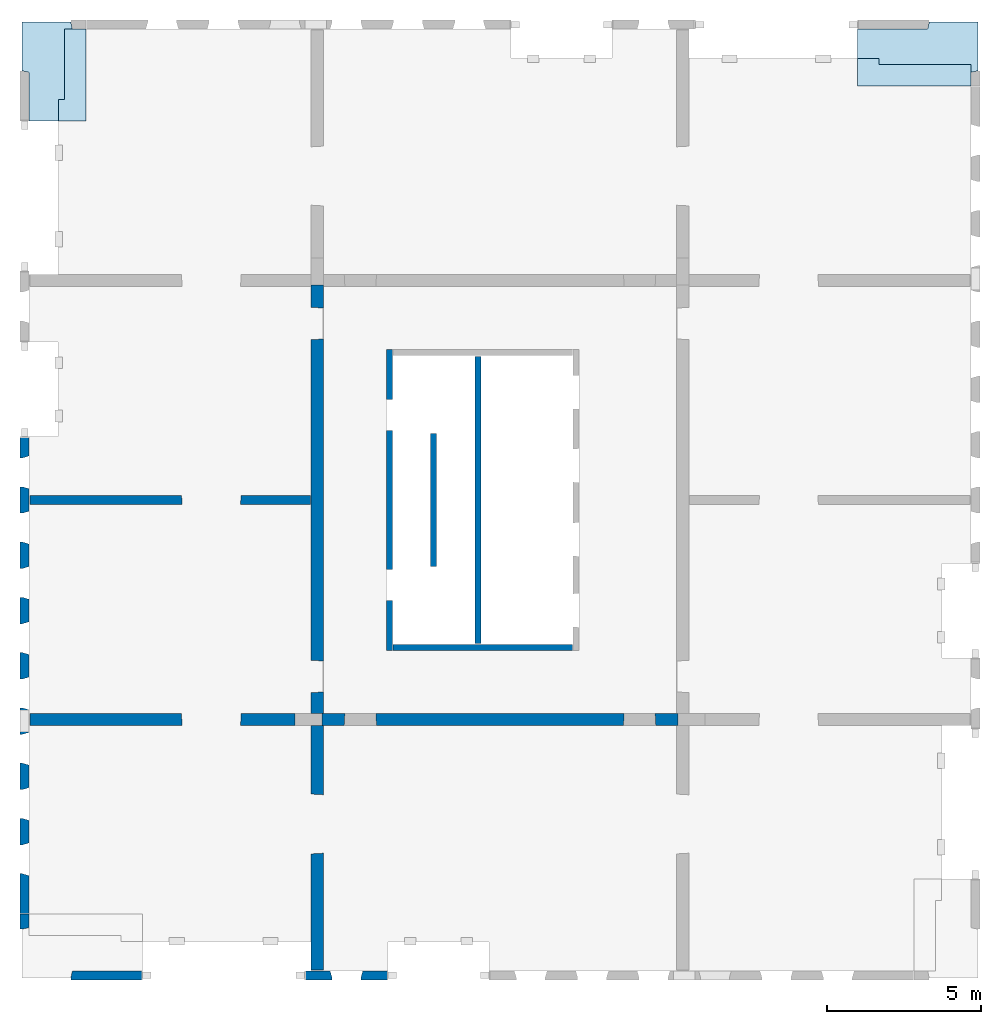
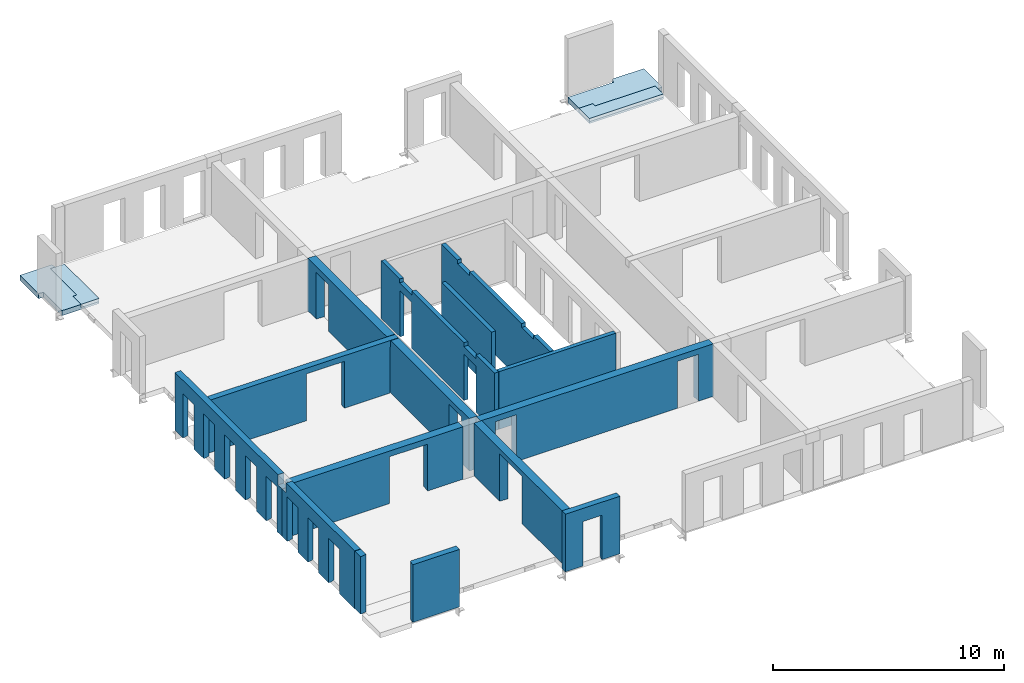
# One storey, part 2 of 4: 14 walls, 4 slabs, 34 openings.
"""IFC2X3 building model written with IfcOpenShell, lengths in millimetres."""

from ifc_helpers import new_model, entity, si_unit, converted_unit, derived_unit, direction, frame, frame_2d, origin, place, context, subcontext, project, spatial, polyline, rectangle, outline, extrude, faceted_brep, material, layer, layer_set, layer_usage, type_object, element, save


model = new_model("IFC2X3")

# Units and contexts
model_context = context("Model", 3, precision=0.01, world=origin(), true_north=direction((6.12303176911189e-17, 1.0)))
body_context = subcontext(model_context, "Body", "Model", "MODEL_VIEW")
ifc_project = project(units=[si_unit("LENGTHUNIT", "METRE", prefix="MILLI"), si_unit("AREAUNIT", "SQUARE_METRE"), si_unit("VOLUMEUNIT", "CUBIC_METRE"), converted_unit("PLANEANGLEUNIT", "DEGREE", entity("IfcRatioMeasure", 0.0174532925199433), si_unit("PLANEANGLEUNIT", "RADIAN"), dimensions=[0, 0, 0, 0, 0, 0, 0]), si_unit("MASSUNIT", "GRAM", prefix="KILO"), derived_unit("MASSDENSITYUNIT", [(si_unit("MASSUNIT", "GRAM", prefix="KILO"), 1), (si_unit("LENGTHUNIT", "METRE"), -3)]), si_unit("TIMEUNIT", "SECOND"), si_unit("FREQUENCYUNIT", "HERTZ"), si_unit("THERMODYNAMICTEMPERATUREUNIT", "DEGREE_CELSIUS"), derived_unit("THERMALTRANSMITTANCEUNIT", [(si_unit("MASSUNIT", "GRAM", prefix="KILO"), 1), (si_unit("THERMODYNAMICTEMPERATUREUNIT", "KELVIN"), -1), (si_unit("TIMEUNIT", "SECOND"), -3)]), derived_unit("VOLUMETRICFLOWRATEUNIT", [(si_unit("LENGTHUNIT", "METRE"), 3), (si_unit("TIMEUNIT", "SECOND"), -1)]), si_unit("ELECTRICCURRENTUNIT", "AMPERE"), si_unit("ELECTRICVOLTAGEUNIT", "VOLT"), si_unit("POWERUNIT", "WATT"), si_unit("FORCEUNIT", "NEWTON", prefix="KILO"), si_unit("ILLUMINANCEUNIT", "LUX"), si_unit("LUMINOUSFLUXUNIT", "LUMEN"), si_unit("LUMINOUSINTENSITYUNIT", "CANDELA"), derived_unit("USERDEFINED", [(si_unit("MASSUNIT", "GRAM", prefix="KILO"), -1), (si_unit("LENGTHUNIT", "METRE"), -2), (si_unit("TIMEUNIT", "SECOND"), 3), (si_unit("LUMINOUSFLUXUNIT", "LUMEN"), 1)]), derived_unit("LINEARVELOCITYUNIT", [(si_unit("LENGTHUNIT", "METRE"), 1), (si_unit("TIMEUNIT", "SECOND"), -1)]), si_unit("PRESSUREUNIT", "PASCAL"), derived_unit("USERDEFINED", [(si_unit("LENGTHUNIT", "METRE"), -2), (si_unit("MASSUNIT", "GRAM", prefix="KILO"), 1), (si_unit("TIMEUNIT", "SECOND"), -2)])], contexts=[model_context])

# Site, building, storey
site_placement = place(None, origin())
site = spatial("IfcSite", under=ifc_project, at=site_placement, Name="Default", CompositionType="ELEMENT")
building_placement = place(site_placement, origin())
building = spatial("IfcBuilding", under=site, at=building_placement, Name="niet gebruiken", CompositionType="ELEMENT")
storey_placement = place(building_placement, frame((0.0, 0.0, 94500.0)))
storey = spatial("IfcBuildingStorey", under=building, at=storey_placement, Name="30 dertigste verdieping", CompositionType="ELEMENT", Elevation=94500.0000000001)

# Slabs
ifc_material_1 = material(Name="NLRS_f2_beton prefab")
ifc_layer_1 = layer(ifc_material_1, 270.0)
ifc_layer_set_1 = layer_set([ifc_layer_1], Name="Floor:NLRS_23.22_FL_beton prefab d=270 3D element_gen")
ifc_layer_usage_1 = layer_usage(ifc_layer_set_1, "AXIS3", "POSITIVE", 0.0)
slab_1_placement = place(storey_placement, origin())
element("IfcSlab", 1, at=slab_1_placement, inside=storey, material=ifc_layer_usage_1, Name="Floor:NLRS_23.22_FL_beton prefab d=270 3D element_gen", ObjectType="Floor:NLRS_23.22_FL_beton prefab d=270 3D element_gen", PredefinedType="LANDING", context=body_context, shape_type="SweptSolid", body=[
    extrude(outline(polyline([(-322.675940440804, -982.471394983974), (1267.47139498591, -982.471394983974), (1267.47139498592, 607.675940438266), (1034.47139498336, 655.152429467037), (1034.47139498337, 1100.5286050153), (-1955.52860501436, 1100.52860501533), (-1955.52860501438, -749.471394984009), (-370.152429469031, -749.471394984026), (-322.675940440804, -982.471394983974)])), frame((127169.471394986, 31795.5286050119, -90.0), z_axis=(0.0, 0.0, -1.0), x_axis=(0.0, 1.0, 0.0)), (0.0, 0.0, 1.0), 270.000000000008),
])
ifc_material_2 = material(Name="NLRS_f2_beton ihwg")
ifc_layer_2 = layer(ifc_material_2, 170.0)
ifc_layer_set_2 = layer_set([ifc_layer_2], Name="Floor:NLRS_23.21_FL_beton ihwg d=170_gen")
ifc_layer_usage_2 = layer_usage(ifc_layer_set_2, "AXIS3", "POSITIVE", 0.0)
slab_2_placement = place(storey_placement, origin())
element("IfcSlab", 2, at=slab_2_placement, inside=storey, material=ifc_layer_usage_2, Name="Floor:NLRS_23.21_FL_beton ihwg d=170_gen", ObjectType="Floor:NLRS_23.21_FL_beton ihwg d=170_gen", PredefinedType="FLOOR", context=body_context, shape_type="SweptSolid", body=[
    extrude(outline(polyline([(-1230.0, -366.666666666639), (-530.0, -366.666666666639), (-530.0, -166.66666666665), (1760.0, -166.666666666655), (1760.0, 533.333333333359), (-1230.0, 533.333333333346), (-1230.0, -366.666666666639)])), frame((127736.666666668, 31070.0, -90.0), z_axis=(0.0, 0.0, -1.0), x_axis=(0.0, 1.0, 0.0)), (0.0, 0.0, 1.0), 169.999999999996),
])
ifc_layer_usage_3 = layer_usage(ifc_layer_set_1, "AXIS3", "POSITIVE", 0.0)
slab_3_placement = place(storey_placement, origin())
element("IfcSlab", 3, at=slab_3_placement, inside=storey, material=ifc_layer_usage_3, Name="Floor:NLRS_23.22_FL_beton prefab d=270 3D element_gen", ObjectType="Floor:NLRS_23.22_FL_beton prefab d=270 3D element_gen", PredefinedType="LANDING", context=body_context, shape_type="SweptSolid", body=[
    extrude(outline(polyline([(-1100.52860501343, -2480.52860501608), (749.471394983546, -2480.52860501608), (749.471394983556, -195.152429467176), (982.471394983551, -147.675940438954), (982.471394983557, 1442.47139498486), (-607.675940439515, 1442.47139498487), (-655.152429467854, 1209.47139498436), (-1100.52860501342, 1209.47139498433), (-1100.52860501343, -2480.52860501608)])), frame((155870.528605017, 32080.5286050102, -90.0), z_axis=(0.0, 0.0, -1.0), x_axis=(0.0, 1.0, 0.0)), (0.0, 0.0, 1.0), 270.000000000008),
])
ifc_layer_usage_4 = layer_usage(ifc_layer_set_2, "AXIS3", "POSITIVE", 0.0)
slab_4_placement = place(storey_placement, origin())
element("IfcSlab", 4, at=slab_4_placement, inside=storey, material=ifc_layer_usage_4, Name="Floor:NLRS_23.21_FL_beton ihwg d=170_gen", ObjectType="Floor:NLRS_23.21_FL_beton ihwg d=170_gen", PredefinedType="FLOOR", context=body_context, shape_type="SweptSolid", body=[
    extrude(outline(polyline([(-533.333333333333, -1463.33333333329), (366.666666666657, -1463.33333333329), (366.666666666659, -763.333333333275), (166.66666666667, -763.333333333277), (166.666666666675, 2226.66666666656), (-533.333333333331, 2226.66666666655), (-533.333333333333, -1463.33333333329)])), frame((154853.333333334, 31513.3333333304, -90.0), z_axis=(0.0, 0.0, -1.0), x_axis=(0.0, 1.0, 0.0)), (0.0, 0.0, 1.0), 169.999999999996),
])

# Wall, openings
ifc_layer_3 = layer(ifc_material_1, 200.0)
ifc_layer_set_3 = layer_set([ifc_layer_3], Name="Basic Wall:NLRS_22.21_WA_beton prefab d=200_gen")
ifc_layer_usage_5 = layer_usage(ifc_layer_set_3, "AXIS2", "NEGATIVE", 100.0)
wall_type_1 = type_object("IfcWallType", Name="Basic Wall:NLRS_22.21_WA_beton prefab d=200_gen", PredefinedType="STANDARD", material=ifc_layer_set_3)
wall_1_placement = place(storey_placement, frame((138150.0, 22400.0, -50.0), z_axis=(0.0, 0.0, 1.0), x_axis=(0.0, -1.0, 0.0)))
wall_1 = element("IfcWallStandardCase", 5, at=wall_1_placement, inside=storey, type_object=wall_type_1, material=ifc_layer_usage_5, Name="Basic Wall:NLRS_22.21_WA_beton prefab d=200_gen", ObjectType="Basic Wall:NLRS_22.21_WA_beton prefab d=200_gen", context=body_context, shape_type="SweptSolid", body=[
    extrude(rectangle(XDim=9800.0, YDim=199.999999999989, at=frame_2d((4900.0, 3.76587649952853e-13), x_axis=(-1.0, 0.0))), origin(), (0.0, 0.0, 1.0), 3040.0),
])
opening_1_placement = place(wall_1_placement, origin())
element("IfcOpeningElement", 6, at=opening_1_placement, cuts=wall_1, Name="Basic Wall:NLRS_22.21_WA_beton prefab d=200_gen", ObjectType="Opening", context=body_context, shape_type="SweptSolid", body=[
    extrude(rectangle(XDim=200.000000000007, YDim=1044.0, at=frame_2d((8.66862137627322e-12, 0.0), x_axis=(1.0, 0.0))), frame((7672.0, -100.0, 2940.0), z_axis=(0.0, 1.0, 0.0), x_axis=(0.0, 0.0, -1.0)), (0.0, 0.0, 1.0), 199.999999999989),
])
opening_2_placement = place(wall_1_placement, origin())
element("IfcOpeningElement", 7, at=opening_2_placement, cuts=wall_1, Name="Basic Wall:NLRS_22.21_WA_beton prefab d=200_gen", ObjectType="Opening", context=body_context, shape_type="SweptSolid", body=[
    extrude(rectangle(XDim=200.000000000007, YDim=1044.0, at=frame_2d((8.66862137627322e-12, 2.1600499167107e-12), x_axis=(1.0, 0.0))), frame((2128.0, -100.0, 2940.0), z_axis=(0.0, 1.0, 0.0), x_axis=(0.0, 0.0, -1.0)), (0.0, 0.0, 1.0), 199.999999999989),
])
opening_3_placement = place(wall_1_placement, origin())
element("IfcOpeningElement", 8, at=opening_3_placement, cuts=wall_1, Name="Basic Wall:NLRS_22.21_WA_beton prefab d=200_gen", ObjectType="Opening", context=body_context, shape_type="SweptSolid", body=[
    extrude(rectangle(XDim=2435.0, YDim=1015.99999999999, at=frame_2d((0.0, 1.10844666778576e-12), x_axis=(1.0, 0.0))), frame((7672.0, -100.0, 1217.50000000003), z_axis=(0.0, 1.0, 0.0), x_axis=(0.0, 0.0, -1.0)), (0.0, 0.0, 1.0), 199.999999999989),
])
opening_4_placement = place(wall_1_placement, origin())
element("IfcOpeningElement", 9, at=opening_4_placement, cuts=wall_1, Name="Basic Wall:NLRS_22.21_WA_beton prefab d=200_gen", ObjectType="Opening", context=body_context, shape_type="SweptSolid", body=[
    extrude(rectangle(XDim=2435.0, YDim=1015.99999999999, at=frame_2d((0.0, -2.18847162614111e-12), x_axis=(1.0, 0.0))), frame((2128.0, -100.0, 1217.50000000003), z_axis=(0.0, 1.0, 0.0), x_axis=(0.0, 0.0, -1.0)), (0.0, 0.0, 1.0), 199.999999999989),
])

ifc_layer_usage_6 = layer_usage(ifc_layer_set_3, "AXIS2", "NEGATIVE", 100.0)
wall_2_placement = place(storey_placement, frame((141030.0, 22180.0, -50.0), z_axis=(0.0, 0.0, 1.0), x_axis=(0.0, -1.0, 0.0)))
wall_2 = element("IfcWallStandardCase", 10, at=wall_2_placement, inside=storey, type_object=wall_type_1, material=ifc_layer_usage_6, Name="Basic Wall:NLRS_22.21_WA_beton prefab d=200_gen", ObjectType="Basic Wall:NLRS_22.21_WA_beton prefab d=200_gen", context=body_context, shape_type="SweptSolid", body=[
    extrude(rectangle(XDim=9360.0, YDim=199.999999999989, at=frame_2d((4680.0, -2.8421709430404e-14), x_axis=(-1.0, 0.0))), origin(), (0.0, 0.0, 1.0), 3040.0),
])
opening_5_placement = place(wall_2_placement, origin())
element("IfcOpeningElement", 11, at=opening_5_placement, cuts=wall_2, Name="Basic Wall:NLRS_22.21_WA_beton prefab d=200_gen", ObjectType="Opening", context=body_context, shape_type="SweptSolid", body=[
    extrude(rectangle(XDim=70.0000000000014, YDim=1044.00000000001, at=frame_2d((-8.66506866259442e-12, 0.0), x_axis=(1.0, 0.0))), frame((7452.0, -100.0, 35.0), z_axis=(0.0, 1.0, 0.0), x_axis=(0.0, 0.0, -1.0)), (0.0, 0.0, 1.0), 199.999999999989),
])
opening_6_placement = place(wall_2_placement, origin())
element("IfcOpeningElement", 12, at=opening_6_placement, cuts=wall_2, Name="Basic Wall:NLRS_22.21_WA_beton prefab d=200_gen", ObjectType="Opening", context=body_context, shape_type="SweptSolid", body=[
    extrude(rectangle(XDim=70.0000000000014, YDim=1044.00000000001, at=frame_2d((-8.66506866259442e-12, 0.0), x_axis=(1.0, 0.0))), frame((1908.0, -100.0, 35.0), z_axis=(0.0, 1.0, 0.0), x_axis=(0.0, 0.0, -1.0)), (0.0, 0.0, 1.0), 199.999999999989),
])
opening_7_placement = place(wall_2_placement, origin())
element("IfcOpeningElement", 13, at=opening_7_placement, cuts=wall_2, Name="Basic Wall:NLRS_22.21_WA_beton prefab d=200_gen", ObjectType="Opening", context=body_context, shape_type="SweptSolid", body=[
    extrude(rectangle(XDim=200.000000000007, YDim=1044.00000000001, at=frame_2d((-8.66862137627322e-12, 0.0), x_axis=(1.0, 0.0))), frame((1908.0, -100.0, 2940.0), z_axis=(0.0, 1.0, 0.0), x_axis=(0.0, 0.0, -1.0)), (0.0, 0.0, 1.0), 199.999999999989),
])
opening_8_placement = place(wall_2_placement, origin())
element("IfcOpeningElement", 14, at=opening_8_placement, cuts=wall_2, Name="Basic Wall:NLRS_22.21_WA_beton prefab d=200_gen", ObjectType="Opening", context=body_context, shape_type="SweptSolid", body=[
    extrude(rectangle(XDim=200.000000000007, YDim=1044.00000000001, at=frame_2d((-8.66862137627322e-12, 0.0), x_axis=(1.0, 0.0))), frame((7452.0, -100.0, 2940.0), z_axis=(0.0, 1.0, 0.0), x_axis=(0.0, 0.0, -1.0)), (0.0, 0.0, 1.0), 199.999999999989),
])
opening_9_placement = place(wall_2_placement, origin())
element("IfcOpeningElement", 15, at=opening_9_placement, cuts=wall_2, Name="Basic Wall:NLRS_22.21_WA_beton prefab d=200_gen", ObjectType="Recess", context=body_context, shape_type="SweptSolid", body=[
    extrude(rectangle(XDim=399.999999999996, YDim=280.000000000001, at=frame_2d((-2.1600499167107e-12, -8.66862137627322e-12), x_axis=(0.0, 1.0))), frame((770.0, -60.0, 438.0), z_axis=(0.0, 1.0, 0.0), x_axis=(1.0, 0.0, 0.0)), (0.0, 0.0, 1.0), 159.999999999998),
])
opening_10_placement = place(wall_2_placement, origin())
element("IfcOpeningElement", 16, at=opening_10_placement, cuts=wall_2, Name="Basic Wall:NLRS_22.21_WA_beton prefab d=200_gen", ObjectType="Recess", context=body_context, shape_type="SweptSolid", body=[
    extrude(rectangle(XDim=399.999999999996, YDim=280.000000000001, at=frame_2d((-2.1600499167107e-12, -8.66862137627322e-12), x_axis=(0.0, 1.0))), frame((1570.0, -60.0, 438.0), z_axis=(0.0, 1.0, 0.0), x_axis=(1.0, 0.0, 0.0)), (0.0, 0.0, 1.0), 159.999999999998),
])
opening_11_placement = place(wall_2_placement, origin())
element("IfcOpeningElement", 17, at=opening_11_placement, cuts=wall_2, Name="Basic Wall:NLRS_22.21_WA_beton prefab d=200_gen", ObjectType="Recess", context=body_context, shape_type="SweptSolid", body=[
    extrude(rectangle(XDim=399.999999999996, YDim=279.999999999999, at=frame_2d((-1.08002495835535e-12, -8.66862137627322e-12), x_axis=(0.0, 1.0))), frame((3160.0, -60.0, 438.0), z_axis=(0.0, 1.0, 0.0), x_axis=(1.0, 0.0, 0.0)), (0.0, 0.0, 1.0), 159.999999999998),
])
opening_12_placement = place(wall_2_placement, origin())
element("IfcOpeningElement", 18, at=opening_12_placement, cuts=wall_2, Name="Basic Wall:NLRS_22.21_WA_beton prefab d=200_gen", ObjectType="Recess", context=body_context, shape_type="SweptSolid", body=[
    extrude(rectangle(XDim=399.999999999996, YDim=279.999999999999, at=frame_2d((1.08002495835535e-12, -8.66862137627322e-12), x_axis=(0.0, 1.0))), frame((3960.0, -60.0, 438.0), z_axis=(0.0, 1.0, 0.0), x_axis=(1.0, 0.0, 0.0)), (0.0, 0.0, 1.0), 159.999999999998),
])

# Walls
ifc_layer_usage_7 = layer_usage(ifc_layer_set_3, "AXIS2", "NEGATIVE", 100.0)
wall_3_placement = place(storey_placement, frame((139590.0, 19660.0, -50.0), z_axis=(0.0, 0.0, 1.0), x_axis=(0.0, -1.0, 0.0)))
element("IfcWallStandardCase", 19, at=wall_3_placement, inside=storey, type_object=wall_type_1, material=ifc_layer_usage_7, Name="Basic Wall:NLRS_22.21_WA_beton prefab d=200_gen", ObjectType="Basic Wall:NLRS_22.21_WA_beton prefab d=200_gen", context=body_context, shape_type="SweptSolid", body=[
    extrude(rectangle(XDim=4320.00000000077, YDim=199.999999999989, at=frame_2d((2160.00000000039, 0.0), x_axis=(-1.0, 0.0))), origin(), (0.0, 0.0, 1.0), 3040.0),
])
ifc_layer_usage_8 = layer_usage(ifc_layer_set_3, "AXIS2", "NEGATIVE", 100.0)
wall_4_placement = place(storey_placement, frame((138270.0, 12700.0, -50.0)))
element("IfcWallStandardCase", 20, at=wall_4_placement, inside=storey, type_object=wall_type_1, material=ifc_layer_usage_8, Name="Basic Wall:NLRS_22.21_WA_beton prefab d=200_gen", ObjectType="Basic Wall:NLRS_22.21_WA_beton prefab d=200_gen", context=body_context, shape_type="SweptSolid", body=[
    extrude(rectangle(XDim=5839.99999999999, YDim=199.999999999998, at=frame_2d((2919.99999999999, -6.82121026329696e-13), x_axis=(-1.0, 0.0))), origin(), (0.0, 0.0, 1.0), 3040.0),
])

# Wall, openings
ifc_layer_4 = layer(ifc_material_1, 300.0)
ifc_layer_set_4 = layer_set([ifc_layer_4], Name="Basic Wall:NLRS_22.21_WA_beton prefab d=300_gen")
ifc_layer_usage_9 = layer_usage(ifc_layer_set_4, "AXIS2", "NEGATIVE", 150.0)
wall_type_2 = type_object("IfcWallType", Name="Basic Wall:NLRS_22.21_WA_beton prefab d=300_gen", PredefinedType="STANDARD", material=ifc_layer_set_4)
wall_5_placement = place(storey_placement, frame((126440.0, 17500.0, -70.0)))
wall_5 = element("IfcWallStandardCase", 21, at=wall_5_placement, inside=storey, type_object=wall_type_2, material=ifc_layer_usage_9, Name="Basic Wall:NLRS_22.21_WA_beton prefab d=300_gen", ObjectType="Basic Wall:NLRS_22.21_WA_beton prefab d=300_gen", context=body_context, shape_type="SweptSolid", body=[
    extrude(rectangle(XDim=9559.9999999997, YDim=300.000000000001, at=frame_2d((4779.99999999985, -5.54223333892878e-13), x_axis=(-1.0, 0.0))), origin(), (0.0, 0.0, 1.0), 2769.99999999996),
])
opening_13_placement = place(wall_5_placement, frame((4942.0, -150.0, 0.0)))
element("IfcOpeningElement", 22, at=opening_13_placement, cuts=wall_5, Name="Basic Wall:NLRS_22.21_WA_beton prefab d=300_gen", ObjectType="Opening", context=body_context, shape_type="Brep", body=[
    faceted_brep([(1918.0, 0.0, 2470.0), (18.0, 0.0, 2470.0), (18.0, 0.0, 0.0), (1918.0, 0.0, 0.0), (1936.0, 300.0, 2488.0), (1936.0, 300.0, 0.0), (0.0, 300.0, 0.0), (0.0, 300.0, 2488.0)], [[[0, 1, 2, 3]], [[4, 5, 6, 7]], [[4, 7, 1, 0]], [[7, 6, 2, 1]], [[6, 5, 3, 2]], [[5, 4, 0, 3]]]),
])
opening_14_placement = place(wall_5_placement, origin())
element("IfcOpeningElement", 23, at=opening_14_placement, cuts=wall_5, Name="Basic Wall:NLRS_22.21_WA_beton prefab d=300_gen", ObjectType="Opening", context=body_context, shape_type="SweptSolid", body=[
    extrude(rectangle(XDim=2439.99999999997, YDim=420.000000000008, at=frame_2d((0.0, 0.0), x_axis=(0.0, 1.0))), frame((9350.0, 150.0, 1220.0), z_axis=(0.0, -1.0, 0.0), x_axis=(1.0, 0.0, 0.0)), (0.0, 0.0, 1.0), 300.0),
])

# Wall, opening
ifc_layer_5 = layer(ifc_material_1, 400.0)
ifc_layer_set_5 = layer_set([ifc_layer_5], Name="Basic Wall:NLRS_22.21_WA_beton prefab d=400_gen")
ifc_layer_usage_10 = layer_usage(ifc_layer_set_5, "AXIS2", "NEGATIVE", 200.0)
wall_type_3 = type_object("IfcWallType", Name="Basic Wall:NLRS_22.21_WA_beton prefab d=400_gen", PredefinedType="STANDARD", material=ifc_layer_set_5)
wall_6_placement = place(storey_placement, frame((135800.0, 10150.0, -70.0), z_axis=(0.0, 0.0, 1.0), x_axis=(0.0, -1.0, 0.0)))
wall_6 = element("IfcWallStandardCase", 24, at=wall_6_placement, inside=storey, type_object=wall_type_3, material=ifc_layer_usage_10, Name="Basic Wall:NLRS_22.21_WA_beton prefab d=400_gen", ObjectType="Basic Wall:NLRS_22.21_WA_beton prefab d=400_gen", context=body_context, shape_type="SweptSolid", body=[
    extrude(rectangle(XDim=7959.99999999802, YDim=400.000000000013, at=frame_2d((3979.99999999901, 4.54747350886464e-13), x_axis=(-1.0, 0.0))), origin(), (0.0, 0.0, 1.0), 2770.00000000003),
])
opening_15_placement = place(wall_6_placement, frame((4174.0, -200.0, 0.0)))
element("IfcOpeningElement", 25, at=opening_15_placement, cuts=wall_6, Name="Basic Wall:NLRS_22.21_WA_beton prefab d=400_gen", ObjectType="Opening", context=body_context, shape_type="Brep", body=[
    faceted_brep([(-24.0, 400.0, 2470.0), (-24.0, 400.0, 0.0), (-1924.0, 400.0, 0.0), (-1924.0, 400.0, 2470.0), (0.0, 0.0, 2494.0), (-1948.0, 0.0, 2494.0), (-1948.0, 0.0, 0.0), (0.0, 0.0, 0.0)], [[[0, 1, 2, 3]], [[4, 5, 6, 7]], [[4, 0, 3, 5]], [[5, 3, 2, 6]], [[6, 2, 1, 7]], [[7, 1, 0, 4]]]),
])

# Wall, openings
ifc_layer_usage_11 = layer_usage(ifc_layer_set_5, "AXIS2", "NEGATIVE", 200.0)
wall_7_placement = place(storey_placement, frame((135950.003540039, 10350.0, -70.0)))
wall_7 = element("IfcWallStandardCase", 26, at=wall_7_placement, inside=storey, type_object=wall_type_3, material=ifc_layer_usage_11, Name="Basic Wall:NLRS_22.21_WA_beton prefab d=400_gen", ObjectType="Basic Wall:NLRS_22.21_WA_beton prefab d=400_gen", context=body_context, shape_type="SweptSolid", body=[
    extrude(rectangle(XDim=11599.9964599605, YDim=400.0, at=frame_2d((5799.99822998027, 1.56319401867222e-13), x_axis=(-1.0, 0.0))), origin(), (0.0, 0.0, 1.0), 2770.00000000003),
])
opening_16_placement = place(wall_7_placement, frame((725.996459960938, -200.0, 0.0)))
element("IfcOpeningElement", 27, at=opening_16_placement, cuts=wall_7, Name="Basic Wall:NLRS_22.21_WA_beton prefab d=400_gen", ObjectType="Opening", context=body_context, shape_type="Brep", body=[
    faceted_brep([(0.0, 0.0, 2472.0), (24.0, 400.0, 2448.0), (24.0, 400.0, 0.0), (0.0, 0.0, 0.0), (1030.0, 400.0, 0.0), (1054.0, 0.0, 0.0), (1030.0, 400.0, 2448.0), (1054.0, 0.0, 2472.0)], [[[0, 1, 2, 3]], [[3, 2, 4, 5]], [[6, 4, 2, 1]], [[7, 0, 3, 5]], [[7, 6, 1, 0]], [[5, 4, 6, 7]]]),
])
opening_17_placement = place(wall_7_placement, frame((9819.99645996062, -200.0, 0.0)))
element("IfcOpeningElement", 28, at=opening_17_placement, cuts=wall_7, Name="Basic Wall:NLRS_22.21_WA_beton prefab d=400_gen", ObjectType="Opening", context=body_context, shape_type="Brep", body=[
    faceted_brep([(0.0, 0.0, 2472.0), (24.0, 400.0, 2448.0), (24.0, 400.0, 0.0), (0.0, 0.0, 0.0), (1030.0, 400.0, 0.0), (1054.0, 0.0, 0.0), (1030.0, 400.0, 2448.0), (1054.0, 0.0, 2472.0)], [[[0, 1, 2, 3]], [[3, 2, 4, 5]], [[6, 4, 2, 1]], [[7, 0, 3, 5]], [[7, 6, 1, 0]], [[5, 4, 6, 7]]]),
])

# Wall, opening
ifc_layer_usage_12 = layer_usage(ifc_layer_set_5, "AXIS2", "NEGATIVE", 200.0)
wall_8_placement = place(storey_placement, frame((126440.0, 10350.0, -70.0)))
wall_8 = element("IfcWallStandardCase", 29, at=wall_8_placement, inside=storey, type_object=wall_type_3, material=ifc_layer_usage_12, Name="Basic Wall:NLRS_22.21_WA_beton prefab d=400_gen", ObjectType="Basic Wall:NLRS_22.21_WA_beton prefab d=400_gen", context=body_context, shape_type="SweptSolid", body=[
    extrude(rectangle(XDim=8630.00354003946, YDim=400.0, at=frame_2d((4315.00177001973, -2.70006239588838e-13), x_axis=(-1.0, 0.0))), origin(), (0.0, 0.0, 1.0), 2770.00000000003),
])
opening_18_placement = place(wall_8_placement, frame((4936.0, -200.0, 0.0)))
element("IfcOpeningElement", 30, at=opening_18_placement, cuts=wall_8, Name="Basic Wall:NLRS_22.21_WA_beton prefab d=400_gen", ObjectType="Opening", context=body_context, shape_type="Brep", body=[
    faceted_brep([(1924.0, 0.0, 2470.0), (24.0, 0.0, 2470.0), (24.0, 0.0, 0.0), (1924.0, 0.0, 0.0), (1948.0, 400.0, 2494.0), (1948.0, 400.0, 0.0), (0.0, 400.0, 0.0), (0.0, 400.0, 2494.0)], [[[0, 1, 2, 3]], [[4, 5, 6, 7]], [[4, 7, 1, 0]], [[7, 6, 2, 1]], [[6, 5, 3, 2]], [[5, 4, 0, 3]]]),
])

# Wall, openings
ifc_layer_usage_13 = layer_usage(ifc_layer_set_5, "AXIS2", "NEGATIVE", 200.0)
wall_9_placement = place(storey_placement, frame((135800.0, 24500.0, -70.0), z_axis=(0.0, 0.0, 1.0), x_axis=(0.0, -1.0, 0.0)))
wall_9 = element("IfcWallStandardCase", 31, at=wall_9_placement, inside=storey, type_object=wall_type_3, material=ifc_layer_usage_13, Name="Basic Wall:NLRS_22.21_WA_beton prefab d=400_gen", ObjectType="Basic Wall:NLRS_22.21_WA_beton prefab d=400_gen", context=body_context, shape_type="SweptSolid", body=[
    extrude(rectangle(XDim=13950.0, YDim=400.000000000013, at=frame_2d((6974.99999999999, 2.8421709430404e-14), x_axis=(-1.0, 0.0))), origin(), (0.0, 0.0, 1.0), 2770.00000000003),
])
opening_19_placement = place(wall_9_placement, frame((13274.0, -200.0, 0.0)))
element("IfcOpeningElement", 32, at=opening_19_placement, cuts=wall_9, Name="Basic Wall:NLRS_22.21_WA_beton prefab d=400_gen", ObjectType="Opening", context=body_context, shape_type="Brep", body=[
    faceted_brep([(-1054.0, 0.0, 2472.0), (-1030.0, 400.0, 2448.0), (-1030.0, 400.0, 0.0), (-1054.0, 0.0, 0.0), (-24.0, 400.0, 0.0), (0.0, 0.0, 0.0), (-24.0, 400.0, 2448.0), (0.0, 0.0, 2472.0)], [[[0, 1, 2, 3]], [[3, 2, 4, 5]], [[6, 4, 2, 1]], [[7, 0, 3, 5]], [[7, 6, 1, 0]], [[5, 4, 6, 7]]]),
])
opening_20_placement = place(wall_9_placement, frame((1780.0, -200.0, 0.0)))
element("IfcOpeningElement", 33, at=opening_20_placement, cuts=wall_9, Name="Basic Wall:NLRS_22.21_WA_beton prefab d=400_gen", ObjectType="Opening", context=body_context, shape_type="Brep", body=[
    faceted_brep([(-1054.0, 0.0, 2472.0), (-1030.0, 400.0, 2448.0), (-1030.0, 400.0, 0.0), (-1054.0, 0.0, 0.0), (-24.0, 400.0, 0.0), (0.0, 0.0, 0.0), (-24.0, 400.0, 2448.0), (0.0, 0.0, 2472.0)], [[[0, 1, 2, 3]], [[3, 2, 4, 5]], [[6, 4, 2, 1]], [[7, 0, 3, 5]], [[7, 6, 1, 0]], [[5, 4, 6, 7]]]),
])
opening_21_placement = place(wall_9_placement, origin())
element("IfcOpeningElement", 34, at=opening_21_placement, cuts=wall_9, Name="Basic Wall:NLRS_22.21_WA_beton prefab d=400_gen", ObjectType="Opening", context=body_context, shape_type="SweptSolid", body=[
    extrude(rectangle(XDim=350.000000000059, YDim=339.999999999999, at=frame_2d((-1.08002495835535e-12, 0.0), x_axis=(0.0, 1.0))), frame((7000.0, 200.0, 2595.0), z_axis=(0.0, -1.0, 0.0), x_axis=(-1.0, 0.0, 0.0)), (0.0, 0.0, 1.0), 400.0),
])

# Wall, opening
ifc_layer_6 = layer(ifc_material_1, 300.0)
ifc_layer_set_6 = layer_set([ifc_layer_6], Name="Basic Wall:NLRS_21.21_WA_beton prefab d=300/320_gen")
ifc_layer_usage_14 = layer_usage(ifc_layer_set_6, "AXIS2", "NEGATIVE", 150.0)
wall_type_4 = type_object("IfcWallType", Name="Basic Wall:NLRS_21.21_WA_beton prefab d=300/320_gen", PredefinedType="STANDARD", material=ifc_layer_set_6)
wall_10_placement = place(storey_placement, frame((138110.0, 2020.0, -50.0), z_axis=(0.0, 0.0, 1.0), x_axis=(-1.0, 0.0, 0.0)))
wall_10 = element("IfcWallStandardCase", 35, at=wall_10_placement, inside=storey, type_object=wall_type_4, material=ifc_layer_usage_14, Name="Basic Wall:NLRS_21.21_WA_beton prefab d=300/320_gen", ObjectType="Basic Wall:NLRS_21.21_WA_beton prefab d=300/320_gen", context=body_context, shape_type="SweptSolid", body=[
    extrude(rectangle(XDim=2720.00000000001, YDim=300.0, at=frame_2d((1360.0, -8.5265128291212e-14), x_axis=(-1.0, 0.0))), origin(), (0.0, 0.0, 1.0), 3040.0),
])
opening_22_placement = place(wall_10_placement, frame((1895.0, 150.0, -20.0)))
element("IfcOpeningElement", 36, at=opening_22_placement, cuts=wall_10, Name="Basic Wall:NLRS_21.21_WA_beton prefab d=300/320_gen", ObjectType="Opening", context=body_context, shape_type="Brep", body=[
    faceted_brep([(-1070.0, -300.0, 2405.0), (-1070.0, -300.0, 0.0), (0.0, -300.0, 0.0), (0.0, -300.0, 2405.0), (-65.0, -81.0, 2370.0), (-1005.0, -81.0, 2370.0), (-65.0, -81.0, 0.0), (-1005.0, -81.0, 0.0), (-1005.0, 0.0, 0.0), (-65.0, 0.0, 0.0), (-1005.0, 0.0, 2370.0), (-65.0, 0.0, 2370.0)], [[[0, 1, 2, 3]], [[3, 4, 5, 0]], [[2, 6, 4, 3]], [[1, 7, 8, 9, 6, 2]], [[0, 5, 7, 1]], [[10, 11, 9, 8]], [[10, 5, 4, 11]], [[11, 4, 6, 9]], [[8, 7, 5, 10]]]),
])

# Wall, openings
ifc_layer_usage_15 = layer_usage(ifc_layer_set_6, "AXIS2", "NEGATIVE", 150.0)
wall_11_placement = place(storey_placement, frame((126270.0, 4040.0, -50.0), z_axis=(0.0, 0.0, 1.0), x_axis=(0.0, 1.0, 0.0)))
wall_11 = element("IfcWallStandardCase", 37, at=wall_11_placement, inside=storey, type_object=wall_type_4, material=ifc_layer_usage_15, Name="Basic Wall:NLRS_21.21_WA_beton prefab d=300/320_gen", ObjectType="Basic Wall:NLRS_21.21_WA_beton prefab d=300/320_gen", context=body_context, shape_type="SweptSolid", body=[
    extrude(rectangle(XDim=6249.99999999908, YDim=300.000000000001, at=frame_2d((3124.99999999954, 0.0), x_axis=(-1.0, 0.0))), origin(), (0.0, 0.0, 1.0), 3039.99999999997),
])
opening_23_placement = place(wall_11_placement, frame((1225.0, 150.0, -20.0)))
element("IfcOpeningElement", 38, at=opening_23_placement, cuts=wall_11, Name="Basic Wall:NLRS_21.21_WA_beton prefab d=300/320_gen", ObjectType="Opening", context=body_context, shape_type="Brep", body=[
    faceted_brep([(0.0, -300.0, 2405.0), (0.0, -300.0, 0.0), (1070.0, -300.0, 0.0), (1070.0, -300.0, 2405.0), (1005.0, -81.0, 2370.0), (65.0, -81.0, 2370.0), (1005.0, -81.0, 0.0), (65.0, -81.0, 0.0), (65.0, 0.0, 0.0), (1005.0, 0.0, 0.0), (65.0, 0.0, 2370.0), (1005.0, 0.0, 2370.0)], [[[0, 1, 2, 3]], [[3, 4, 5, 0]], [[2, 6, 4, 3]], [[1, 7, 8, 9, 6, 2]], [[0, 5, 7, 1]], [[10, 11, 9, 8]], [[10, 5, 4, 11]], [[11, 4, 6, 9]], [[8, 7, 5, 10]]]),
])
opening_24_placement = place(wall_11_placement, frame((3025.0, 150.0, -20.0)))
element("IfcOpeningElement", 39, at=opening_24_placement, cuts=wall_11, Name="Basic Wall:NLRS_21.21_WA_beton prefab d=300/320_gen", ObjectType="Opening", context=body_context, shape_type="Brep", body=[
    faceted_brep([(0.0, -300.0, 2405.0), (0.0, -300.0, 0.0), (1070.0, -300.0, 0.0), (1070.0, -300.0, 2405.0), (1005.0, -81.0, 2370.0), (65.0, -81.0, 2370.0), (1005.0, -81.0, 0.0), (65.0, -81.0, 0.0), (65.0, 0.0, 0.0), (1005.0, 0.0, 0.0), (65.0, 0.0, 2370.0), (1005.0, 0.0, 2370.0)], [[[0, 1, 2, 3]], [[3, 4, 5, 0]], [[2, 6, 4, 3]], [[1, 7, 8, 9, 6, 2]], [[0, 5, 7, 1]], [[10, 11, 9, 8]], [[10, 5, 4, 11]], [[11, 4, 6, 9]], [[8, 7, 5, 10]]]),
])
opening_25_placement = place(wall_11_placement, frame((4825.0, 150.0, -20.0)))
element("IfcOpeningElement", 40, at=opening_25_placement, cuts=wall_11, Name="Basic Wall:NLRS_21.21_WA_beton prefab d=300/320_gen", ObjectType="Opening", context=body_context, shape_type="Brep", body=[
    faceted_brep([(0.0, -300.0, 2405.0), (0.0, -300.0, 0.0), (1070.0, -300.0, 0.0), (1070.0, -300.0, 2405.0), (1005.0, -81.0, 2370.0), (65.0, -81.0, 2370.0), (1005.0, -81.0, 0.0), (65.0, -81.0, 0.0), (65.0, 0.0, 0.0), (1005.0, 0.0, 0.0), (65.0, 0.0, 2370.0), (1005.0, 0.0, 2370.0)], [[[0, 1, 2, 3]], [[3, 4, 5, 0]], [[2, 6, 4, 3]], [[1, 7, 8, 9, 6, 2]], [[0, 5, 7, 1]], [[10, 11, 9, 8]], [[10, 5, 4, 11]], [[11, 4, 6, 9]], [[8, 7, 5, 10]]]),
])
opening_26_placement = place(wall_11_placement, origin())
element("IfcOpeningElement", 41, at=opening_26_placement, cuts=wall_11, Name="Basic Wall:NLRS_21.21_WA_beton prefab d=300/320_gen", ObjectType="Opening", context=body_context, shape_type="SweptSolid", body=[
    extrude(rectangle(XDim=534.99999999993, YDim=344.999999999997, at=frame_2d((0.0, 1.08002495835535e-12), x_axis=(1.0, 0.0))), frame((6077.49999999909, 150.0, 2772.5), z_axis=(0.0, -1.0, 0.0), x_axis=(0.0, 0.0, 1.0)), (0.0, 0.0, 1.0), 300.0),
])

# Wall, opening
ifc_layer_usage_16 = layer_usage(ifc_layer_set_6, "AXIS2", "NEGATIVE", 150.0)
wall_12_placement = place(storey_placement, frame((130110.0, 2020.0, -50.0), z_axis=(0.0, 0.0, 1.0), x_axis=(-1.0, 0.0, 0.0)))
wall_12 = element("IfcWallStandardCase", 42, at=wall_12_placement, inside=storey, type_object=wall_type_4, material=ifc_layer_usage_16, Name="Basic Wall:NLRS_21.21_WA_beton prefab d=300/320_gen", ObjectType="Basic Wall:NLRS_21.21_WA_beton prefab d=300/320_gen", context=body_context, shape_type="SweptSolid", body=[
    extrude(rectangle(XDim=2330.00000000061, YDim=300.0, at=frame_2d((1165.00000000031, -5.6843418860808e-14), x_axis=(-1.0, 0.0))), origin(), (0.0, 0.0, 1.0), 3040.0),
])
opening_27_placement = place(wall_12_placement, frame((2330.0, 69.0, 0.0)))
element("IfcOpeningElement", 43, at=opening_27_placement, cuts=wall_12, Name="Basic Wall:NLRS_21.21_WA_beton prefab d=300/320_gen", ObjectType="Opening", context=body_context, shape_type="Brep", body=[
    faceted_brep([(0.0, -319.0, 3040.0), (0.0, 0.0, 3040.0), (-65.0, -319.0, 3040.0), (0.0, -319.0, 0.0), (-65.0, -319.0, 0.0), (0.0, 0.0, 0.0)], [[[0, 1, 2]], [[3, 4, 5]], [[2, 4, 3, 0]], [[0, 3, 5, 1]], [[1, 5, 4, 2]]]),
])

ifc_layer_usage_17 = layer_usage(ifc_layer_set_6, "AXIS2", "NEGATIVE", 150.0)
wall_13_placement = place(storey_placement, frame((126270.0, 3530.0, -50.0), z_axis=(0.0, 0.0, 1.0), x_axis=(0.0, 1.0, 0.0)))
wall_13 = element("IfcWallStandardCase", 44, at=wall_13_placement, inside=storey, type_object=wall_type_4, material=ifc_layer_usage_17, Name="Basic Wall:NLRS_21.21_WA_beton prefab d=300/320_gen", ObjectType="Basic Wall:NLRS_21.21_WA_beton prefab d=300/320_gen", context=body_context, shape_type="SweptSolid", body=[
    extrude(rectangle(XDim=489.999999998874, YDim=300.000000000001, at=frame_2d((244.999999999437, -3.25428572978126e-12), x_axis=(-1.0, 0.0))), origin(), (0.0, 0.0, 1.0), 3040.0),
])
opening_28_placement = place(wall_13_placement, frame((-1.97405825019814e-09, 69.0, 0.0)))
element("IfcOpeningElement", 45, at=opening_28_placement, cuts=wall_13, Name="Basic Wall:NLRS_21.21_WA_beton prefab d=300/320_gen", ObjectType="Opening", context=body_context, shape_type="Brep", body=[
    faceted_brep([(0.0, -319.0, 3040.0), (65.0, -319.0, 3040.0), (0.0, 0.0, 3040.0), (0.0, -319.0, 0.0), (0.0, 0.0, 0.0), (65.0, -319.0, 0.0)], [[[0, 1, 2]], [[3, 4, 5]], [[1, 0, 3, 5]], [[0, 2, 4, 3]], [[2, 1, 5, 4]]]),
])

# Wall, openings
ifc_layer_usage_18 = layer_usage(ifc_layer_set_6, "AXIS2", "NEGATIVE", 150.0)
wall_14_placement = place(storey_placement, frame((126270.0, 10310.0, -50.0), z_axis=(0.0, 0.0, 1.0), x_axis=(0.0, 1.0, 0.0)))
wall_14 = element("IfcWallStandardCase", 46, at=wall_14_placement, inside=storey, type_object=wall_type_4, material=ifc_layer_usage_18, Name="Basic Wall:NLRS_21.21_WA_beton prefab d=300/320_gen", ObjectType="Basic Wall:NLRS_21.21_WA_beton prefab d=300/320_gen", context=body_context, shape_type="SweptSolid", body=[
    extrude(rectangle(XDim=9250.00000000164, YDim=300.000000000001, at=frame_2d((4625.00000000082, 0.0), x_axis=(-1.0, 0.0))), origin(), (0.0, 0.0, 1.0), 3040.0),
])
opening_29_placement = place(wall_14_placement, frame((7555.0, 150.0, -20.0)))
element("IfcOpeningElement", 47, at=opening_29_placement, cuts=wall_14, Name="Basic Wall:NLRS_21.21_WA_beton prefab d=300/320_gen", ObjectType="Opening", context=body_context, shape_type="Brep", body=[
    faceted_brep([(0.0, -300.0, 2405.0), (0.0, -300.0, 0.0), (1070.0, -300.0, 0.0), (1070.0, -300.0, 2405.0), (1005.0, -81.0, 2370.0), (65.0, -81.0, 2370.0), (1005.0, -81.0, 0.0), (65.0, -81.0, 0.0), (65.0, 0.0, 0.0), (1005.0, 0.0, 0.0), (65.0, 0.0, 2370.0), (1005.0, 0.0, 2370.0)], [[[0, 1, 2, 3]], [[3, 4, 5, 0]], [[2, 6, 4, 3]], [[1, 7, 8, 9, 6, 2]], [[0, 5, 7, 1]], [[10, 11, 9, 8]], [[10, 5, 4, 11]], [[11, 4, 6, 9]], [[8, 7, 5, 10]]]),
])
opening_30_placement = place(wall_14_placement, frame((3955.0, 150.0, -20.0)))
element("IfcOpeningElement", 48, at=opening_30_placement, cuts=wall_14, Name="Basic Wall:NLRS_21.21_WA_beton prefab d=300/320_gen", ObjectType="Opening", context=body_context, shape_type="Brep", body=[
    faceted_brep([(0.0, -300.0, 2405.0), (0.0, -300.0, 0.0), (1070.0, -300.0, 0.0), (1070.0, -300.0, 2405.0), (1005.0, -81.0, 2370.0), (65.0, -81.0, 2370.0), (1005.0, -81.0, 0.0), (65.0, -81.0, 0.0), (65.0, 0.0, 0.0), (1005.0, 0.0, 0.0), (65.0, 0.0, 2370.0), (1005.0, 0.0, 2370.0)], [[[0, 1, 2, 3]], [[3, 4, 5, 0]], [[2, 6, 4, 3]], [[1, 7, 8, 9, 6, 2]], [[0, 5, 7, 1]], [[10, 11, 9, 8]], [[10, 5, 4, 11]], [[11, 4, 6, 9]], [[8, 7, 5, 10]]]),
])
opening_31_placement = place(wall_14_placement, frame((2155.0, 150.0, -20.0)))
element("IfcOpeningElement", 49, at=opening_31_placement, cuts=wall_14, Name="Basic Wall:NLRS_21.21_WA_beton prefab d=300/320_gen", ObjectType="Opening", context=body_context, shape_type="Brep", body=[
    faceted_brep([(0.0, -300.0, 2405.0), (0.0, -300.0, 0.0), (1070.0, -300.0, 0.0), (1070.0, -300.0, 2405.0), (1005.0, -81.0, 2370.0), (65.0, -81.0, 2370.0), (1005.0, -81.0, 0.0), (65.0, -81.0, 0.0), (65.0, 0.0, 0.0), (1005.0, 0.0, 0.0), (65.0, 0.0, 2370.0), (1005.0, 0.0, 2370.0)], [[[0, 1, 2, 3]], [[3, 4, 5, 0]], [[2, 6, 4, 3]], [[1, 7, 8, 9, 6, 2]], [[0, 5, 7, 1]], [[10, 11, 9, 8]], [[10, 5, 4, 11]], [[11, 4, 6, 9]], [[8, 7, 5, 10]]]),
])
opening_32_placement = place(wall_14_placement, frame((5755.0, 150.0, -20.0)))
element("IfcOpeningElement", 50, at=opening_32_placement, cuts=wall_14, Name="Basic Wall:NLRS_21.21_WA_beton prefab d=300/320_gen", ObjectType="Opening", context=body_context, shape_type="Brep", body=[
    faceted_brep([(0.0, -300.0, 2405.0), (0.0, -300.0, 0.0), (1070.0, -300.0, 0.0), (1070.0, -300.0, 2405.0), (1005.0, -81.0, 2370.0), (65.0, -81.0, 2370.0), (1005.0, -81.0, 0.0), (65.0, -81.0, 0.0), (65.0, 0.0, 0.0), (1005.0, 0.0, 0.0), (65.0, 0.0, 2370.0), (1005.0, 0.0, 2370.0)], [[[0, 1, 2, 3]], [[3, 4, 5, 0]], [[2, 6, 4, 3]], [[1, 7, 8, 9, 6, 2]], [[0, 5, 7, 1]], [[10, 11, 9, 8]], [[10, 5, 4, 11]], [[11, 4, 6, 9]], [[8, 7, 5, 10]]]),
])
opening_33_placement = place(wall_14_placement, frame((355.0, 150.0, -20.0)))
element("IfcOpeningElement", 51, at=opening_33_placement, cuts=wall_14, Name="Basic Wall:NLRS_21.21_WA_beton prefab d=300/320_gen", ObjectType="Opening", context=body_context, shape_type="Brep", body=[
    faceted_brep([(1070.0, -300.0, 2405.0), (0.0, -300.0, 2405.0), (0.0, -300.0, 0.0), (1070.0, -300.0, 0.0), (1005.0, -81.0, 2370.0), (65.0, -81.0, 2370.0), (65.0, -81.0, 0.0), (65.0, 0.0, 0.0), (1005.0, 0.0, 0.0), (1005.0, -81.0, 0.0), (1005.0, 0.0, 2370.0), (65.0, 0.0, 2370.0)], [[[0, 1, 2, 3]], [[1, 0, 4, 5]], [[2, 1, 5, 6]], [[3, 2, 6, 7, 8, 9]], [[0, 3, 9, 4]], [[10, 8, 7, 11]], [[10, 11, 5, 4]], [[11, 7, 6, 5]], [[8, 10, 4, 9]]]),
])
opening_34_placement = place(wall_14_placement, origin())
element("IfcOpeningElement", 52, at=opening_34_placement, cuts=wall_14, Name="Basic Wall:NLRS_21.21_WA_beton prefab d=300/320_gen", ObjectType="Opening", context=body_context, shape_type="SweptSolid", body=[
    extrude(rectangle(XDim=535.0, YDim=345.000000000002, at=frame_2d((1.08002495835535e-12, 0.0), x_axis=(0.0, 1.0))), frame((172.500000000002, 150.0, 2772.5), z_axis=(0.0, -1.0, 0.0), x_axis=(-1.0, 0.0, 0.0)), (0.0, 0.0, 1.0), 300.0),
])

save(model, "model.ifc")
